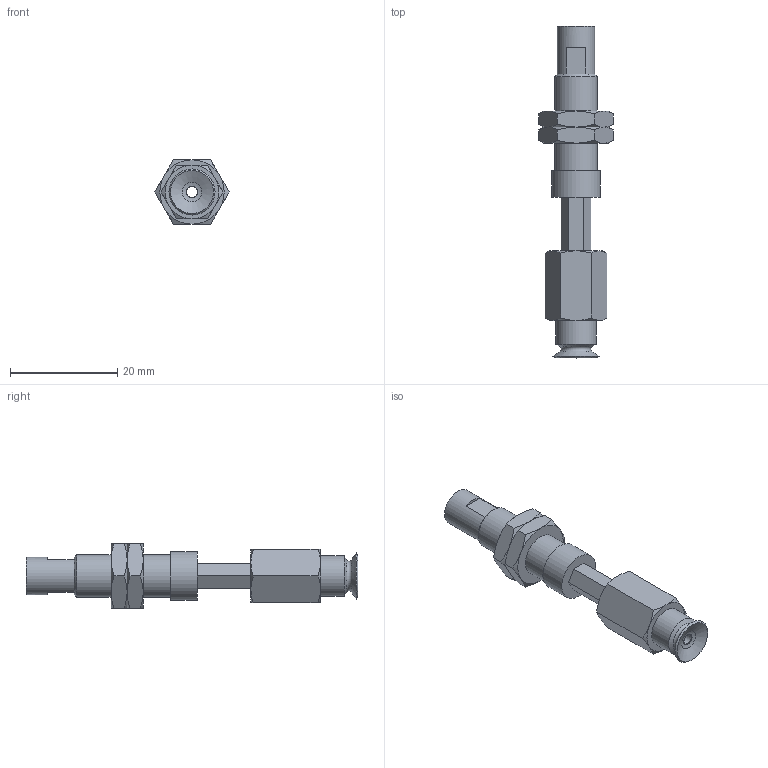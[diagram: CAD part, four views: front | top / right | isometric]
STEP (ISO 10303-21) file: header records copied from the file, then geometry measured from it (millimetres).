
FILE_DESCRIPTION(('STEP AP203'),'1');
FILE_NAME('.stp','2025-08-27T03:04:15',(' '),(' '),'Spatial InterOp 3D',' ',' ');
FILE_SCHEMA(('CONFIG_CONTROL_DESIGN'));
Length unit declared in the file: millimetre
Products named in the file (6): BNABPFTH-8A-10-※; ADAPTER; NAPATH-10A-10--M; Nut-8A-10-h; NAPFTH-8A-10-FBODY; BPFG-8A-※
Assembly tree (6 placements, depth 2):
  BNABPFTH-8A-10-※
    ADAPTER
    NAPATH-10A-10--M
    Nut-8A-10-h  x2
    NAPFTH-8A-10-FBODY
    BPFG-8A-※
Bounding box: 13.86 x 62 x 12 mm (x, y, z)
Volume: 3387.5 mm3; surface area: 4010.6 mm2
Topology: 6 solids, 6 shells, 123 faces, 266 edges, 161 vertices
Faces by surface type: plane 52, cone 46, cylinder 14, torus 10, bspline 1
Full cylindrical faces by diameter (mm): 2 x3, 4 x2, 4.134 x1, 6 x2, 7 x1, 7.188 x2, 7.5 x1, 8 x1, 9 x1
Entity records: 3003 total; most frequent: CARTESIAN_POINT 724, DIRECTION 412, ORIENTED_EDGE 354, AXIS2_PLACEMENT_3D 177, EDGE_CURVE 177, EDGE_LOOP 148, VERTEX_POINT 125, FACE_OUTER_BOUND 124
